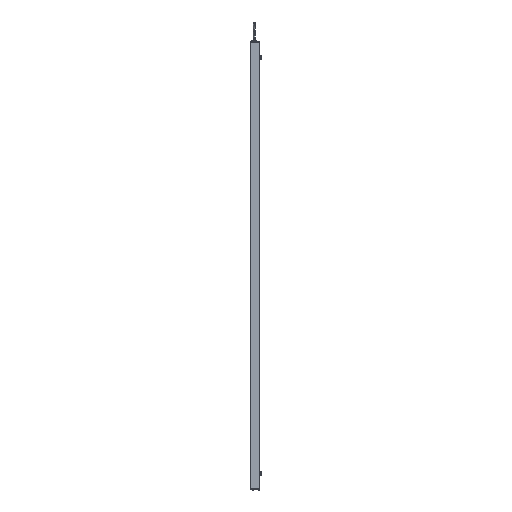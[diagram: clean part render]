
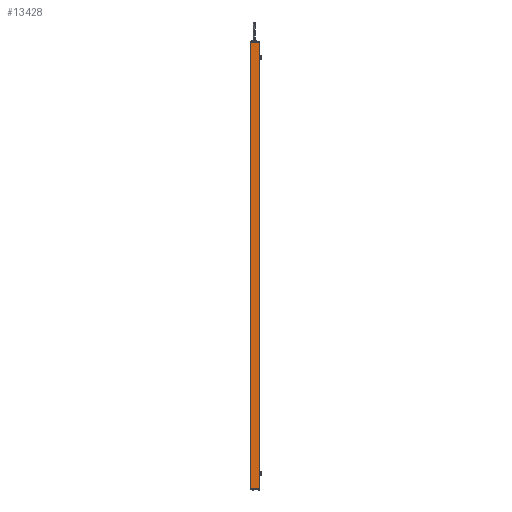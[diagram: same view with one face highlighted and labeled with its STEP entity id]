
A CAD part, left-side view. The second image highlights one B-rep face of the part: STEP entity #13428.
In plain terms, the highlighted planar face has unit normal (-1, 0, 0).
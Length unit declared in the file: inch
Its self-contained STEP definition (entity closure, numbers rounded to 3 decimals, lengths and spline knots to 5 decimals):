
#1123 = VERTEX_POINT ( 'NONE', #7101 ) ;
#1536 = VERTEX_POINT ( 'NONE', #11373 ) ;
#2511 = CARTESIAN_POINT ( 'NONE',  ( -0.665, 1.105, 25.75 ) ) ;
#2545 = CARTESIAN_POINT ( 'NONE',  ( -0.665, 0., 25.75 ) ) ;
#2597 = LINE ( 'NONE', #15909, #13723 ) ;
#2758 = PLANE ( 'NONE',  #9744 ) ;
#4083 = EDGE_CURVE ( 'NONE', #18132, #1123, #14485, .T. ) ;
#4434 = LINE ( 'NONE', #18075, #6037 ) ;
#4457 = VECTOR ( 'NONE', #12754, 39.37008 ) ;
#6037 = VECTOR ( 'NONE', #10975, 39.37008 ) ;
#6202 = ORIENTED_EDGE ( 'NONE', *, *, #18567, .T. ) ;
#7101 = CARTESIAN_POINT ( 'NONE',  ( -0.665, 1.105, -25.75 ) ) ;
#7934 = ORIENTED_EDGE ( 'NONE', *, *, #12344, .T. ) ;
#9744 = AXIS2_PLACEMENT_3D ( 'NONE', #15871, #11327, #17714 ) ;
#9820 = DIRECTION ( 'NONE',  ( 0., -1., 0. ) ) ;
#9923 = ORIENTED_EDGE ( 'NONE', *, *, #4083, .T. ) ;
#10975 = DIRECTION ( 'NONE',  ( 0., 0., 1. ) ) ;
#11240 = EDGE_CURVE ( 'NONE', #18132, #1536, #13792, .T. ) ;
#11327 = DIRECTION ( 'NONE',  ( 1., 0., 0. ) ) ;
#11373 = CARTESIAN_POINT ( 'NONE',  ( -0.665, 0.015, 25.75 ) ) ;
#11935 = EDGE_LOOP ( 'NONE', ( #16016, #9923, #7934, #6202 ) ) ;
#12344 = EDGE_CURVE ( 'NONE', #1123, #16426, #2597, .T. ) ;
#12754 = DIRECTION ( 'NONE',  ( 0., 0., -1. ) ) ;
#13428 = ADVANCED_FACE ( 'NONE', ( #14407 ), #2758, .F. ) ;
#13723 = VECTOR ( 'NONE', #9820, 39.37008 ) ;
#13792 = LINE ( 'NONE', #2545, #15129 ) ;
#14407 = FACE_OUTER_BOUND ( 'NONE', #11935, .T. ) ;
#14485 = LINE ( 'NONE', #17102, #4457 ) ;
#15129 = VECTOR ( 'NONE', #15637, 39.37008 ) ;
#15637 = DIRECTION ( 'NONE',  ( 0., -1., 0. ) ) ;
#15871 = CARTESIAN_POINT ( 'NONE',  ( -0.665, 0., 25.75 ) ) ;
#15909 = CARTESIAN_POINT ( 'NONE',  ( -0.665, 0., -25.75 ) ) ;
#16016 = ORIENTED_EDGE ( 'NONE', *, *, #11240, .F. ) ;
#16352 = CARTESIAN_POINT ( 'NONE',  ( -0.665, 0.015, -25.75 ) ) ;
#16426 = VERTEX_POINT ( 'NONE', #16352 ) ;
#17102 = CARTESIAN_POINT ( 'NONE',  ( -0.665, 1.105, 25.75 ) ) ;
#17714 = DIRECTION ( 'NONE',  ( 0., 0., -1. ) ) ;
#18075 = CARTESIAN_POINT ( 'NONE',  ( -0.665, 0.015, 25.75 ) ) ;
#18132 = VERTEX_POINT ( 'NONE', #2511 ) ;
#18567 = EDGE_CURVE ( 'NONE', #16426, #1536, #4434, .T. ) ;
